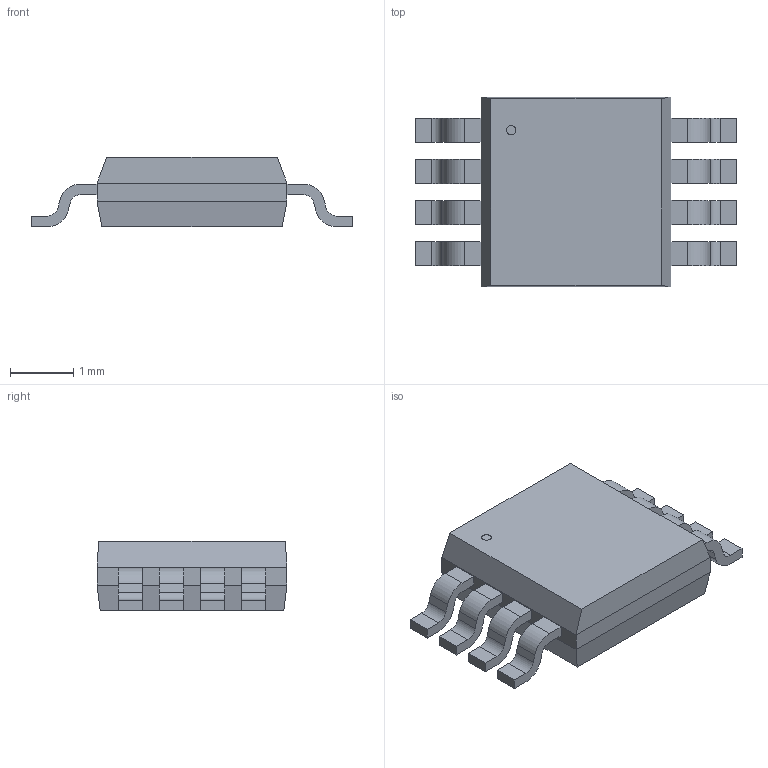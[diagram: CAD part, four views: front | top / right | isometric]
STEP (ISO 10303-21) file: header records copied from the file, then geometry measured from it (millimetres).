
FILE_DESCRIPTION(('STEP AP214'),'1');
FILE_NAME('MSOP_8_ADI','2023-04-07T13:24:08',(''),(''),'','','');
FILE_SCHEMA(('AUTOMOTIVE_DESIGN'));
Length unit declared in the file: millimetre
Products named in the file (1): product
Bounding box: 5.08 x 3 x 1.09 mm (x, y, z)
Volume: 10.1 mm3; surface area: 41.9 mm2
Topology: 10 solids, 10 shells, 129 faces, 319 edges, 210 vertices
Faces by surface type: plane 96, cylinder 33
Full cylindrical faces by diameter (mm): 0.15 x1
Entity records: 3672 total; most frequent: DIRECTION 646, ORIENTED_EDGE 636, CARTESIAN_POINT 375, EDGE_CURVE 318, LINE 252, VECTOR 252, VERTEX_POINT 210, AXIS2_PLACEMENT_3D 197
